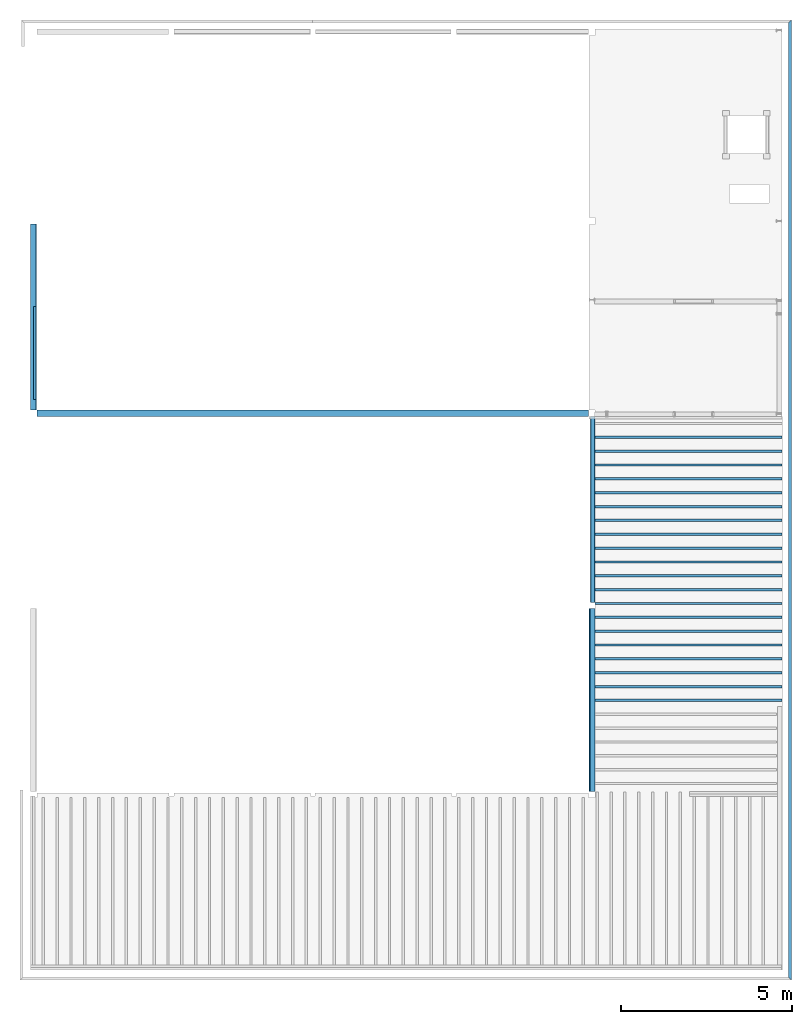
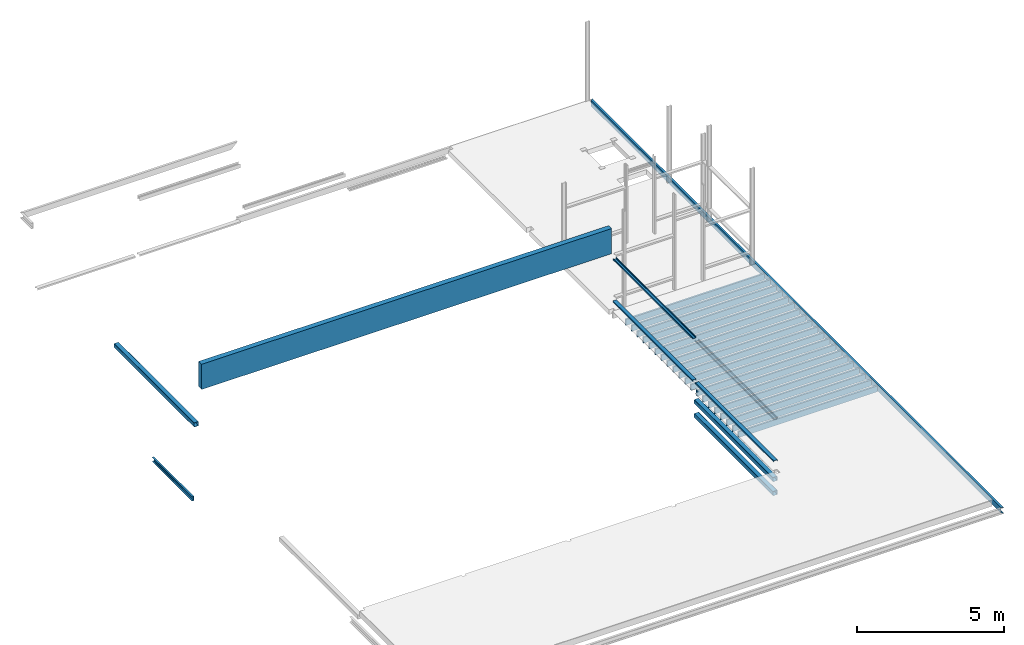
# One storey, part 3 of 8: 29 beams.
"""IFC2X3 building model written with IfcOpenShell, lengths in millimetres."""

from ifc_helpers import new_model, entity, si_unit, converted_unit, derived_unit, direction, frame, frame_2d, origin, place, context, subcontext, project, spatial, polyline, circle_curve, parameter, trimmed, segment, composite_curve, rectangle, outline, extrude, clip, halfspace, material, type_object, element, save


model = new_model("IFC2X3")

# Units and contexts
model_context = context("Model", 3, precision=0.01, world=origin(), true_north=direction((6.123031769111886e-17, 1.0)))
plan_context = context("Plan", 3, precision=0.01, world=origin(), true_north=direction((6.123031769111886e-17, 1.0)))
body_context = subcontext(model_context, "Body", "Model", "MODEL_VIEW")
ifc_project = project(units=[si_unit("LENGTHUNIT", "METRE", prefix="MILLI"), si_unit("AREAUNIT", "SQUARE_METRE"), si_unit("VOLUMEUNIT", "CUBIC_METRE"), converted_unit("PLANEANGLEUNIT", "DEGREE", entity("IfcPlaneAngleMeasure", 0.017453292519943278), si_unit("PLANEANGLEUNIT", "RADIAN"), dimensions=[0, 0, 0, 0, 0, 0, 0]), si_unit("MASSUNIT", "GRAM", prefix="KILO"), derived_unit("MASSDENSITYUNIT", [(si_unit("MASSUNIT", "GRAM", prefix="KILO"), 1), (si_unit("LENGTHUNIT", "METRE"), -3)]), derived_unit("IONCONCENTRATIONUNIT", [(si_unit("MASSUNIT", "GRAM", prefix="KILO"), 1), (si_unit("LENGTHUNIT", "METRE"), -3)]), derived_unit("MOMENTOFINERTIAUNIT", [(si_unit("LENGTHUNIT", "METRE"), 4)]), si_unit("TIMEUNIT", "SECOND"), si_unit("FREQUENCYUNIT", "HERTZ"), si_unit("THERMODYNAMICTEMPERATUREUNIT", "DEGREE_CELSIUS"), derived_unit("THERMALTRANSMITTANCEUNIT", [(si_unit("MASSUNIT", "GRAM", prefix="KILO"), 1), (si_unit("THERMODYNAMICTEMPERATUREUNIT", "KELVIN"), -1), (si_unit("TIMEUNIT", "SECOND"), -3)]), derived_unit("THERMALCONDUCTANCEUNIT", [(si_unit("MASSUNIT", "GRAM", prefix="KILO"), 1), (si_unit("THERMODYNAMICTEMPERATUREUNIT", "KELVIN"), -1), (si_unit("TIMEUNIT", "SECOND"), -3), (si_unit("LENGTHUNIT", "METRE"), 1)]), derived_unit("VOLUMETRICFLOWRATEUNIT", [(si_unit("LENGTHUNIT", "METRE", prefix="DECI"), 3), (si_unit("TIMEUNIT", "SECOND"), -1)]), derived_unit("MASSFLOWRATEUNIT", [(si_unit("MASSUNIT", "GRAM", prefix="KILO"), 1), (si_unit("TIMEUNIT", "SECOND"), -1)]), derived_unit("ROTATIONALFREQUENCYUNIT", [(si_unit("TIMEUNIT", "SECOND"), -1)]), si_unit("ELECTRICCURRENTUNIT", "AMPERE"), si_unit("ELECTRICVOLTAGEUNIT", "VOLT"), si_unit("POWERUNIT", "WATT"), si_unit("FORCEUNIT", "NEWTON", prefix="KILO"), si_unit("ILLUMINANCEUNIT", "LUX"), si_unit("LUMINOUSFLUXUNIT", "LUMEN"), si_unit("LUMINOUSINTENSITYUNIT", "CANDELA"), si_unit("ENERGYUNIT", "JOULE"), derived_unit("USERDEFINED", [(si_unit("MASSUNIT", "GRAM", prefix="KILO"), -1), (si_unit("LENGTHUNIT", "METRE"), -2), (si_unit("TIMEUNIT", "SECOND"), 3), (si_unit("LUMINOUSFLUXUNIT", "LUMEN"), 1)]), derived_unit("USERDEFINED", [(si_unit("MASSUNIT", "GRAM", prefix="KILO"), 1), (si_unit("TIMEUNIT", "SECOND"), -3), (si_unit("LENGTHUNIT", "METRE"), 3), (si_unit("ELECTRICCURRENTUNIT", "AMPERE"), -2)]), derived_unit("SOUNDPOWERUNIT", [(si_unit("MASSUNIT", "GRAM", prefix="KILO"), 1), (si_unit("TIMEUNIT", "SECOND"), -3), (si_unit("LENGTHUNIT", "METRE"), 2)]), derived_unit("SOUNDPRESSUREUNIT", [(si_unit("MASSUNIT", "GRAM", prefix="KILO"), 1), (si_unit("LENGTHUNIT", "METRE"), -1), (si_unit("TIMEUNIT", "SECOND"), -2)]), derived_unit("LINEARVELOCITYUNIT", [(si_unit("LENGTHUNIT", "METRE"), 1), (si_unit("TIMEUNIT", "SECOND"), -1)]), si_unit("PRESSUREUNIT", "PASCAL"), derived_unit("USERDEFINED", [(si_unit("MASSUNIT", "GRAM", prefix="KILO"), 1), (si_unit("LENGTHUNIT", "METRE"), -2), (si_unit("TIMEUNIT", "SECOND"), -2)]), derived_unit("LINEARFORCEUNIT", [(si_unit("MASSUNIT", "GRAM", prefix="KILO"), 1), (si_unit("TIMEUNIT", "SECOND"), -2)]), derived_unit("PLANARFORCEUNIT", [(si_unit("MASSUNIT", "GRAM", prefix="KILO"), 1), (si_unit("LENGTHUNIT", "METRE"), -1), (si_unit("TIMEUNIT", "SECOND"), -2)]), derived_unit("SPECIFICHEATCAPACITYUNIT", [(si_unit("THERMODYNAMICTEMPERATUREUNIT", "KELVIN"), -1), (si_unit("LENGTHUNIT", "METRE"), 2), (si_unit("TIMEUNIT", "SECOND"), -2)]), derived_unit("HEATFLUXDENSITYUNIT", [(si_unit("MASSUNIT", "GRAM", prefix="KILO"), 1), (si_unit("TIMEUNIT", "SECOND"), -3)]), derived_unit("HEATINGVALUEUNIT", [(si_unit("LENGTHUNIT", "METRE"), 2), (si_unit("TIMEUNIT", "SECOND"), -2)]), derived_unit("VAPORPERMEABILITYUNIT", [(si_unit("LENGTHUNIT", "METRE"), -1), (si_unit("TIMEUNIT", "SECOND"), 1)]), derived_unit("DYNAMICVISCOSITYUNIT", [(si_unit("MASSUNIT", "GRAM", prefix="KILO"), 1), (si_unit("TIMEUNIT", "SECOND"), -1), (si_unit("LENGTHUNIT", "METRE"), -1)]), derived_unit("THERMALEXPANSIONCOEFFICIENTUNIT", [(si_unit("THERMODYNAMICTEMPERATUREUNIT", "KELVIN"), -1)]), derived_unit("MODULUSOFELASTICITYUNIT", [(si_unit("MASSUNIT", "GRAM", prefix="KILO"), 1), (si_unit("LENGTHUNIT", "METRE"), -1), (si_unit("TIMEUNIT", "SECOND"), -2)]), derived_unit("ISOTHERMALMOISTURECAPACITYUNIT", [(si_unit("MASSUNIT", "GRAM", prefix="KILO"), -1), (si_unit("LENGTHUNIT", "METRE"), 3)]), derived_unit("MOISTUREDIFFUSIVITYUNIT", [(si_unit("TIMEUNIT", "SECOND"), -1), (si_unit("LENGTHUNIT", "METRE"), 2)]), derived_unit("MASSPERLENGTHUNIT", [(si_unit("MASSUNIT", "GRAM", prefix="KILO"), 1), (si_unit("LENGTHUNIT", "METRE"), -1)]), derived_unit("THERMALRESISTANCEUNIT", [(si_unit("MASSUNIT", "GRAM", prefix="KILO"), -1), (si_unit("TIMEUNIT", "SECOND"), 3), (si_unit("THERMODYNAMICTEMPERATUREUNIT", "KELVIN"), 1)]), derived_unit("ACCELERATIONUNIT", [(si_unit("LENGTHUNIT", "METRE"), 1), (si_unit("TIMEUNIT", "SECOND"), -2)]), derived_unit("ANGULARVELOCITYUNIT", [(si_unit("TIMEUNIT", "SECOND"), -1), (si_unit("PLANEANGLEUNIT", "RADIAN"), 1)]), derived_unit("LINEARSTIFFNESSUNIT", [(si_unit("MASSUNIT", "GRAM", prefix="KILO"), 1), (si_unit("TIMEUNIT", "SECOND"), -2)]), derived_unit("WARPINGCONSTANTUNIT", [(si_unit("LENGTHUNIT", "METRE"), 6)]), derived_unit("LINEARMOMENTUNIT", [(si_unit("MASSUNIT", "GRAM", prefix="KILO"), 1), (si_unit("LENGTHUNIT", "METRE"), 1), (si_unit("TIMEUNIT", "SECOND"), -2)]), derived_unit("TORQUEUNIT", [(si_unit("MASSUNIT", "GRAM", prefix="KILO"), 1), (si_unit("LENGTHUNIT", "METRE"), 2), (si_unit("TIMEUNIT", "SECOND"), -2)])], contexts=[model_context, plan_context])

# Site, building, storey
site_placement = place(None, origin())
site = spatial("IfcSite", under=ifc_project, at=site_placement, Name="Default", CompositionType="ELEMENT")
building_placement = place(site_placement, origin())
building = spatial("IfcBuilding", under=site, at=building_placement, CompositionType="ELEMENT")
storey_placement = place(building_placement, frame((0.0, 0.0, 3410.0)))
storey = spatial("IfcBuildingStorey", under=building, at=storey_placement, Name="01 eerste verdieping", CompositionType="ELEMENT", Elevation=3410.0000000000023)

# Beams
ifc_material_1 = material(Name="constructiehout C24")
beam_type_1 = type_object("IfcBeamType", Name="28_SF_LIB_houten ligger rechthoekig_dw:70x245 (C24)", PredefinedType="NOTDEFINED")
for number, where in (
    (1, (50586.19293735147, 26787.67041296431, 0.0)),
    (2, (50586.19293735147, 26382.67041296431, 0.0)),
    (3, (50586.19293735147, 25977.67041296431, 0.0)),
    (4, (50586.19293735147, 25572.67041296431, 0.0)),
    (5, (50586.19293735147, 25167.67041296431, 0.0)),
    (6, (50586.19293735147, 24762.67041296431, 0.0)),
    (7, (50586.19293735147, 24357.67041296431, 0.0)),
    (8, (50586.19293735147, 23952.67041296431, 0.0)),
    (9, (50586.19293735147, 23547.670412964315, 0.0)),
    (10, (50586.19293735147, 23142.67041296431, 0.0)),
    (11, (50586.19293735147, 22737.67041296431, 0.0)),
    (12, (50586.19293735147, 22332.67041296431, 0.0)),
    (13, (50586.19293735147, 21927.670412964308, 0.0)),
    (14, (50586.19293735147, 21522.67041296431, 0.0)),
    (15, (50586.19293735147, 21117.67041296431, 0.0)),
    (16, (50586.19293735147, 20712.67041296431, 0.0)),
    (17, (50586.19293735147, 20307.670412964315, 0.0)),
    (18, (50586.19293735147, 19902.67041296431, 0.0)),
    (19, (50586.19293735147, 19497.67041296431, 0.0)),
):
    element("IfcBeam", number, at=place(storey_placement, frame(where)), inside=storey, type_object=beam_type_1, material=ifc_material_1, Name="28_SF_LIB_houten ligger rechthoekig_dw:70x245 (C24)", ObjectType="28_SF_LIB_houten ligger rechthoekig_dw:70x245 (C24)", context=body_context, shape_type="SweptSolid", body=[
        extrude(rectangle(XDim=244.99999999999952, YDim=70.0000000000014, at=frame_2d((2.7711166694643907e-13, 0.0), x_axis=(1.0, 0.0))), frame((0.0, 0.0, -130.5000000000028), z_axis=(1.0, 0.0, 0.0), x_axis=(0.0, 0.0, -1.0)), (0.0, 0.0, 1.0), 5460.000000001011),
    ])
beam_1_placement = place(storey_placement, frame((50586.19293735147, 19092.67041296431, 0.0)))
element("IfcBeam", 20, at=beam_1_placement, inside=storey, type_object=beam_type_1, material=ifc_material_1, Name="28_SF_LIB_houten ligger rechthoekig_dw:70x245 (C24)", ObjectType="28_SF_LIB_houten ligger rechthoekig_dw:70x245 (C24)", context=body_context, shape_type="SweptSolid", body=[
    extrude(rectangle(XDim=244.99999999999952, YDim=69.99999999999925, at=frame_2d((2.7711166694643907e-13, 0.0), x_axis=(1.0, 0.0))), frame((0.0, 0.0, -130.5000000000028), z_axis=(1.0, 0.0, 0.0), x_axis=(0.0, 0.0, -1.0)), (0.0, 0.0, 1.0), 5460.000000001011),
])
ifc_material_2 = material(Name="constructiehout GL28h")
beam_type_2 = type_object("IfcBeamType", Name="28_SF_LIB_houten ligger rechthoekig_dw:200x1050 (GL28h)", PredefinedType="NOTDEFINED")
beam_2_placement = place(storey_placement, frame((34256.1929373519, 27492.670340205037, 3465.0)))
element("IfcBeam", 21, at=beam_2_placement, inside=storey, type_object=beam_type_2, material=ifc_material_2, Name="28_SF_LIB_houten ligger rechthoekig_dw:200x1050 (GL28h)", ObjectType="28_SF_LIB_houten ligger rechthoekig_dw:200x1050 (GL28h)", context=body_context, shape_type="SweptSolid", body=[
    extrude(rectangle(XDim=1049.9999999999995, YDim=199.99999999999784, at=frame_2d((0.0, 5.197620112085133e-11), x_axis=(1.0, 0.0))), frame((0.0, 0.0, -525.0), z_axis=(1.0, 0.0, 0.0), x_axis=(0.0, 0.0, -1.0)), (0.0, 0.0, 1.0), 16139.999999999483),
])
ifc_material_3 = material(Name="constructiestaal S235")
beam_type_3 = type_object("IfcBeamType", Name="28_SF_LIB_UNP ligger_dw:UNP240 (S235)", PredefinedType="NOTDEFINED")
beam_3_placement = place(storey_placement, frame((56263.55293735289, 38992.670507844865, -240.0), z_axis=(0.0, 0.0, 1.0), x_axis=(0.0, -1.0, 0.0)))
element("IfcBeam", 22, at=beam_3_placement, inside=storey, type_object=beam_type_3, material=ifc_material_3, Name="28_SF_LIB_UNP ligger_dw:UNP240 (S235)", ObjectType="28_SF_LIB_UNP ligger_dw:UNP240 (S235)", context=body_context, shape_type="SweptSolid", body=[
    clip(clip(extrude(outline(composite_curve([segment(polyline([(-120.06239725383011, -46.749999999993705), (119.93760274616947, -46.749999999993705)]), True, "CONTINUOUS"), segment(polyline([(119.93760274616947, -46.749999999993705), (119.93760274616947, 38.25000000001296)]), True, "CONTINUOUS"), segment(polyline([(119.93760274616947, 38.25000000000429), (113.9977017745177, 38.25000000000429)]), True, "CONTINUOUS"), segment(trimmed(circle_curve(frame_2d((113.99770177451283, 31.750000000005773), x_axis=(0.0, 1.0)), 6.499999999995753), [parameter(0.0)], [parameter(90.00000000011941)], True, "PARAMETER"), True, "CONTINUOUS"), segment(polyline([(107.49770177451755, 31.750000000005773), (103.98541273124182, -24.24999999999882)]), True, "CONTINUOUS"), segment(trimmed(circle_curve(frame_2d((90.98541273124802, -24.250000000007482), x_axis=(1.0, 0.0)), 12.999999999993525), [parameter(269.99999999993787)], [parameter(0.0)], True, "PARAMETER"), False, "CONTINUOUS"), segment(polyline([(90.98541273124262, -37.249999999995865), (-90.47086063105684, -37.249999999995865)]), True, "CONTINUOUS"), segment(trimmed(circle_curve(frame_2d((-90.47086063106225, -24.250000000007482), x_axis=(0.0, -1.0)), 12.999999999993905), [parameter(269.99999999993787)], [parameter(0.0)], True, "PARAMETER"), False, "CONTINUOUS"), segment(polyline([(-103.4708606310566, -24.24999999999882), (-107.88745936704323, 31.750000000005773)]), True, "CONTINUOUS"), segment(trimmed(circle_curve(frame_2d((-114.38745936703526, 31.750000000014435), x_axis=(1.0, 0.0)), 6.499999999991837), [parameter(0.0)], [parameter(90.00000000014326)], True, "PARAMETER"), True, "CONTINUOUS"), segment(polyline([(-114.38745936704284, 38.25000000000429), (-120.06239725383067, 38.25000000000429)]), True, "CONTINUOUS"), segment(polyline([(-120.06239725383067, 38.25000000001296), (-120.06239725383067, -46.749999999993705)]), True, "CONTINUOUS")], self_intersect=False)), frame((0.0, 24.389999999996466, -120.06239725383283), z_axis=(1.0, 0.0, 0.0), x_axis=(0.0, 0.0, -1.0)), (0.0, 0.0, 1.0), 28076.000044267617), halfspace(frame((27991.000044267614, -22.359999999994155, 1690.0), z_axis=(0.7071067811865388, -0.7071067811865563, 0.0), x_axis=(-0.7071067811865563, -0.7071067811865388, 0.0)), False)), halfspace(frame((85.0, -22.35999999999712, 1690.0), z_axis=(-0.7071067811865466, -0.7071067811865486, 0.0), x_axis=(0.7071067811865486, -0.7071067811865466, 0.0)), False)),
])
beam_type_4 = type_object("IfcBeamType", Name="28_SF_LIB_UNP ligger_dw:UNP140 (S235)", PredefinedType="NOTDEFINED")
beam_4_placement = place(storey_placement, frame((50586.19293735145, 21962.67034020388, 2140.0), z_axis=(0.0, 0.0, 1.0), x_axis=(0.0, 1.0, 0.0)))
element("IfcBeam", 23, at=beam_4_placement, inside=storey, type_object=beam_type_4, material=ifc_material_3, Name="28_SF_LIB_UNP ligger_dw:UNP140 (S235)", ObjectType="28_SF_LIB_UNP ligger_dw:UNP140 (S235)", context=body_context, shape_type="SweptSolid", body=[
    extrude(outline(composite_curve([segment(polyline([(-26.833333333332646, -70.06239725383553), (33.16666666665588, -70.06239725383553)]), True, "CONTINUOUS"), segment(polyline([(33.166666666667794, -70.06239725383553), (33.1666666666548, 69.93760274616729)]), True, "CONTINUOUS"), segment(polyline([(33.166666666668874, 69.93760274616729), (-26.833333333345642, 69.93760274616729)]), True, "CONTINUOUS"), segment(polyline([(-26.833333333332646, 69.93760274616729), (-26.833333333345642, 65.16520177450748)]), True, "CONTINUOUS"), segment(trimmed(circle_curve(frame_2d((-21.833333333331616, 65.16520177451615), x_axis=(-1.0, 0.0)), 5.0000000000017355), [parameter(0.0)], [parameter(89.99999999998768)], True, "PARAMETER"), True, "CONTINUOUS"), segment(polyline([(-21.833333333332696, 60.16520177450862), (16.166666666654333, 58.14041273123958)]), True, "CONTINUOUS"), segment(trimmed(circle_curve(frame_2d((16.16666666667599, 48.14041273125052), x_axis=(0.0, 1.0)), 9.999999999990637), [parameter(269.99999999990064)], [parameter(0.0)], True, "PARAMETER"), False, "CONTINUOUS"), segment(polyline([(26.16666666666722, 48.140412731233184), (26.166666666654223, -47.625860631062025)]), True, "CONTINUOUS"), segment(trimmed(circle_curve(frame_2d((16.16666666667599, -47.625860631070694), x_axis=(1.0, 0.0)), 9.999999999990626), [parameter(269.99999999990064)], [parameter(0.0)], True, "PARAMETER"), False, "CONTINUOUS"), segment(polyline([(16.166666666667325, -57.62586063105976), (-21.833333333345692, -60.55495936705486)]), True, "CONTINUOUS"), segment(trimmed(circle_curve(frame_2d((-21.833333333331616, -65.55495936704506), x_axis=(0.0, 1.0)), 5.000000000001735), [parameter(0.0)], [parameter(89.99999999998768)], True, "PARAMETER"), True, "CONTINUOUS"), segment(polyline([(-26.833333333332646, -65.55495936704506), (-26.833333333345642, -70.06239725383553)]), True, "CONTINUOUS")], self_intersect=False)), frame((0.0, 70.06239725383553, 33.1666666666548), z_axis=(1.0, 0.0, 0.0), x_axis=(0.0, 0.0, -1.0)), (0.0, 0.0, 1.0), 5440.000000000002),
])
beam_5_placement = place(storey_placement, frame((50446.192937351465, 16472.670340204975, 432.45000000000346), z_axis=(0.0, 0.0, 1.0), x_axis=(0.0, 1.0, 0.0)))
element("IfcBeam", 24, at=beam_5_placement, inside=storey, type_object=beam_type_4, material=ifc_material_3, Name="28_SF_LIB_UNP ligger_dw:UNP140 (S235)", ObjectType="28_SF_LIB_UNP ligger_dw:UNP140 (S235)", context=body_context, shape_type="SweptSolid", body=[
    extrude(outline(composite_curve([segment(polyline([(-33.16666666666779, -69.93760274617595), (26.833333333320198, -69.93760274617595)]), True, "CONTINUOUS"), segment(polyline([(26.833333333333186, -69.93760274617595), (26.833333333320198, -65.16520177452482)]), True, "CONTINUOUS"), segment(trimmed(circle_curve(frame_2d((21.833333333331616, -65.16520177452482), x_axis=(1.0, 0.0)), 5.0000000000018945), [parameter(0.0)], [parameter(89.99999999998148)], True, "PARAMETER"), True, "CONTINUOUS"), segment(polyline([(21.833333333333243, -60.165201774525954), (-16.166666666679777, -58.14041273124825)]), True, "CONTINUOUS"), segment(trimmed(circle_curve(frame_2d((-16.166666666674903, -48.14041273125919), x_axis=(0.0, -1.0)), 9.999999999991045), [parameter(269.9999999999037)], [parameter(0.0)], True, "PARAMETER"), False, "CONTINUOUS"), segment(polyline([(-26.166666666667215, -48.14041273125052), (-26.16666666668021, 47.6258606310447)]), True, "CONTINUOUS"), segment(trimmed(circle_curve(frame_2d((-16.166666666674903, 47.625860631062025), x_axis=(-1.0, 0.0)), 9.999999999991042), [parameter(269.9999999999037)], [parameter(0.0)], True, "PARAMETER"), False, "CONTINUOUS"), segment(polyline([(-16.16666666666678, 57.62586063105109), (21.833333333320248, 60.554959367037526)]), True, "CONTINUOUS"), segment(trimmed(circle_curve(frame_2d((21.833333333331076, 65.55495936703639), x_axis=(0.0, -1.0)), 5.000000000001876), [parameter(0.0)], [parameter(89.99999999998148)], True, "PARAMETER"), True, "CONTINUOUS"), segment(polyline([(26.833333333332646, 65.55495936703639), (26.83333333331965, 70.06239725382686)]), True, "CONTINUOUS"), segment(polyline([(26.833333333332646, 70.06239725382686), (-33.16666666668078, 70.06239725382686)]), True, "CONTINUOUS"), segment(polyline([(-33.16666666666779, 70.06239725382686), (-33.16666666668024, -69.93760274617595)]), True, "CONTINUOUS")], self_intersect=False)), frame((-48.99987661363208, -70.06239725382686, -33.16666666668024), z_axis=(1.0, 0.0, 0.0), x_axis=(0.0, 0.0, -1.0)), (0.0, 0.0, 1.0), 5358.9998766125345),
])
beam_6_placement = place(storey_placement, frame((50446.19293735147, 21962.670340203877, 432.45000000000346), z_axis=(0.0, 0.0, 1.0), x_axis=(0.0, 1.0, 0.0)))
element("IfcBeam", 25, at=beam_6_placement, inside=storey, type_object=beam_type_4, material=ifc_material_3, Name="28_SF_LIB_UNP ligger_dw:UNP140 (S235)", ObjectType="28_SF_LIB_UNP ligger_dw:UNP140 (S235)", context=body_context, shape_type="SweptSolid", body=[
    extrude(outline(composite_curve([segment(polyline([(-33.16666666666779, -69.93760274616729), (26.83333333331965, -69.93760274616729)]), True, "CONTINUOUS"), segment(polyline([(26.833333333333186, -69.93760274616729), (26.833333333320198, -65.16520177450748)]), True, "CONTINUOUS"), segment(trimmed(circle_curve(frame_2d((21.833333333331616, -65.16520177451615), x_axis=(1.0, 0.0)), 5.000000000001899), [parameter(0.0)], [parameter(89.99999999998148)], True, "PARAMETER"), True, "CONTINUOUS"), segment(polyline([(21.833333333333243, -60.16520177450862), (-16.166666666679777, -58.14041273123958)]), True, "CONTINUOUS"), segment(trimmed(circle_curve(frame_2d((-16.166666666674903, -48.14041273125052), x_axis=(0.0, -1.0)), 9.999999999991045), [parameter(269.9999999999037)], [parameter(0.0)], True, "PARAMETER"), False, "CONTINUOUS"), segment(polyline([(-26.166666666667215, -48.140412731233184), (-26.16666666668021, 47.625860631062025)]), True, "CONTINUOUS"), segment(trimmed(circle_curve(frame_2d((-16.166666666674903, 47.625860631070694), x_axis=(-1.0, 0.0)), 9.999999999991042), [parameter(269.9999999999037)], [parameter(0.0)], True, "PARAMETER"), False, "CONTINUOUS"), segment(polyline([(-16.16666666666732, 57.62586063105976), (21.833333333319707, 60.55495936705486)]), True, "CONTINUOUS"), segment(trimmed(circle_curve(frame_2d((21.833333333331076, 65.55495936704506), x_axis=(0.0, -1.0)), 5.0000000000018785), [parameter(0.0)], [parameter(89.99999999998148)], True, "PARAMETER"), True, "CONTINUOUS"), segment(polyline([(26.833333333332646, 65.55495936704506), (26.83333333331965, 70.06239725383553)]), True, "CONTINUOUS"), segment(polyline([(26.833333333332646, 70.06239725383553), (-33.16666666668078, 70.06239725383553)]), True, "CONTINUOUS"), segment(polyline([(-33.16666666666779, 70.06239725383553), (-33.16666666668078, -69.93760274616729)]), True, "CONTINUOUS")], self_intersect=False)), frame((0.0, -70.06239725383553, -33.16666666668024), z_axis=(1.0, 0.0, 0.0), x_axis=(0.0, 0.0, -1.0)), (0.0, 0.0, 1.0), 5437.400145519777),
])
ifc_material_4 = material(Name="constructiestaal S355")
beam_type_5 = type_object("IfcBeamType", Name="28_SF_UN_koker ligger_dw:K180x180x10 (S355)", PredefinedType="NOTDEFINED")
beam_7_placement = place(storey_placement, origin())
element("IfcBeam", 26, at=beam_7_placement, inside=storey, type_object=beam_type_5, material=ifc_material_4, Name="28_SF_UN_koker ligger_dw:K180x180x10 (S355)", ObjectType="28_SF_UN_koker ligger_dw:K180x180x10 (S355)", context=body_context, shape_type="SweptSolid", body=[
    extrude(outline(composite_curve([segment(polyline([(-75.0, -90.0), (75.0, -90.0)]), True, "CONTINUOUS"), segment(trimmed(circle_curve(frame_2d((75.0, -75.0), x_axis=(-1.0, 0.0)), 15.0), [parameter(90.00000000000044)], [parameter(180.0000000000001)], True, "PARAMETER"), True, "CONTINUOUS"), segment(polyline([(90.0, -75.0), (90.0, 75.0)]), True, "CONTINUOUS"), segment(trimmed(circle_curve(frame_2d((75.0, 75.0), x_axis=(-1.0, 0.0)), 15.0), [parameter(180.00000000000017)], [parameter(269.9999999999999)], True, "PARAMETER"), True, "CONTINUOUS"), segment(polyline([(75.0, 90.0), (-75.0, 90.0)]), True, "CONTINUOUS"), segment(trimmed(circle_curve(frame_2d((-75.0, 75.0), x_axis=(-1.0, 0.0)), 15.0), [parameter(270.0000000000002)], [parameter(3.053332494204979e-13)], True, "PARAMETER"), True, "CONTINUOUS"), segment(polyline([(-90.0, 75.0), (-90.0, -75.0)]), True, "CONTINUOUS"), segment(trimmed(circle_curve(frame_2d((-75.0, -75.0), x_axis=(-1.0, 0.0)), 15.0), [parameter(3.053332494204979e-13)], [parameter(90.0000000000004)], True, "PARAMETER"), True, "CONTINUOUS")], self_intersect=False), holes=[composite_curve([segment(trimmed(circle_curve(frame_2d((-77.0, -77.0), x_axis=(-1.0, 0.0)), 5.0), [parameter(5.597776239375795e-13)], [parameter(90.0000000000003)], True, "PARAMETER"), False, "CONTINUOUS"), segment(polyline([(-82.0, -77.0), (-82.0, 77.0)]), True, "CONTINUOUS"), segment(trimmed(circle_curve(frame_2d((-77.0, 77.0), x_axis=(-1.0, 0.0)), 5.0), [parameter(270.00000000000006)], [parameter(0.0)], True, "PARAMETER"), False, "CONTINUOUS"), segment(polyline([(-77.0, 82.0), (77.0, 82.0)]), True, "CONTINUOUS"), segment(trimmed(circle_curve(frame_2d((77.0, 77.0), x_axis=(-1.0, 0.0)), 5.0), [parameter(179.9999999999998)], [parameter(269.99999999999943)], True, "PARAMETER"), False, "CONTINUOUS"), segment(polyline([(82.0, 77.0), (82.0, -77.0)]), True, "CONTINUOUS"), segment(trimmed(circle_curve(frame_2d((77.0, -77.0), x_axis=(-1.0, 0.0)), 5.0), [parameter(89.99999999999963)], [parameter(179.9999999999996)], True, "PARAMETER"), False, "CONTINUOUS"), segment(polyline([(77.0, -82.0), (-77.0, -82.0)]), True, "CONTINUOUS")], self_intersect=False)]), frame((50496.19293735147, 16423.670463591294, -345.0), z_axis=(0.0, 1.0, 0.0), x_axis=(1.0, 0.0, 0.0)), (0.0, 0.0, 1.0), 5358.999876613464),
])
beam_8_placement = place(storey_placement, origin())
element("IfcBeam", 27, at=beam_8_placement, inside=storey, type_object=beam_type_5, material=ifc_material_4, Name="28_SF_UN_koker ligger_dw:K180x180x10 (S355)", ObjectType="28_SF_UN_koker ligger_dw:K180x180x10 (S355)", context=body_context, shape_type="SweptSolid", body=[
    extrude(outline(composite_curve([segment(polyline([(-75.0, -90.0), (75.0, -90.0)]), True, "CONTINUOUS"), segment(trimmed(circle_curve(frame_2d((75.0, -75.0), x_axis=(-1.0, 0.0)), 15.0), [parameter(90.00000000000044)], [parameter(180.0000000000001)], True, "PARAMETER"), True, "CONTINUOUS"), segment(polyline([(90.0, -75.0), (90.0, 75.0)]), True, "CONTINUOUS"), segment(trimmed(circle_curve(frame_2d((75.0, 75.0), x_axis=(-1.0, 0.0)), 15.0), [parameter(180.00000000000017)], [parameter(269.9999999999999)], True, "PARAMETER"), True, "CONTINUOUS"), segment(polyline([(75.0, 90.0), (-75.0, 90.0)]), True, "CONTINUOUS"), segment(trimmed(circle_curve(frame_2d((-75.0, 75.0), x_axis=(-1.0, 0.0)), 15.0), [parameter(270.0000000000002)], [parameter(3.053332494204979e-13)], True, "PARAMETER"), True, "CONTINUOUS"), segment(polyline([(-90.0, 75.0), (-90.0, -75.0)]), True, "CONTINUOUS"), segment(trimmed(circle_curve(frame_2d((-75.0, -75.0), x_axis=(-1.0, 0.0)), 15.0), [parameter(3.053332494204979e-13)], [parameter(90.0000000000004)], True, "PARAMETER"), True, "CONTINUOUS")], self_intersect=False), holes=[composite_curve([segment(trimmed(circle_curve(frame_2d((-77.0, -77.0), x_axis=(-1.0, 0.0)), 5.0), [parameter(5.597776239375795e-13)], [parameter(90.0000000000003)], True, "PARAMETER"), False, "CONTINUOUS"), segment(polyline([(-82.0, -77.0), (-82.0, 77.0)]), True, "CONTINUOUS"), segment(trimmed(circle_curve(frame_2d((-77.0, 77.0), x_axis=(-1.0, 0.0)), 5.0), [parameter(270.00000000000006)], [parameter(0.0)], True, "PARAMETER"), False, "CONTINUOUS"), segment(polyline([(-77.0, 82.0), (77.0, 82.0)]), True, "CONTINUOUS"), segment(trimmed(circle_curve(frame_2d((77.0, 77.0), x_axis=(-1.0, 0.0)), 5.0), [parameter(179.9999999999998)], [parameter(269.99999999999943)], True, "PARAMETER"), False, "CONTINUOUS"), segment(polyline([(82.0, 77.0), (82.0, -77.0)]), True, "CONTINUOUS"), segment(trimmed(circle_curve(frame_2d((77.0, -77.0), x_axis=(-1.0, 0.0)), 5.0), [parameter(89.99999999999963)], [parameter(179.9999999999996)], True, "PARAMETER"), False, "CONTINUOUS"), segment(polyline([(77.0, -82.0), (-77.0, -82.0)]), True, "CONTINUOUS")], self_intersect=False)]), frame((50496.19293735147, 16423.670463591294, -925.0), z_axis=(0.0, 1.0, 0.0), x_axis=(1.0, 0.0, 0.0)), (0.0, 0.0, 1.0), 5358.999876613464),
])
beam_9_placement = place(storey_placement, origin())
element("IfcBeam", 28, at=beam_9_placement, inside=storey, type_object=beam_type_5, material=ifc_material_4, Name="28_SF_UN_koker ligger_dw:K180x180x10 (S355)", ObjectType="28_SF_UN_koker ligger_dw:K180x180x10 (S355)", context=body_context, shape_type="SweptSolid", body=[
    extrude(outline(composite_curve([segment(polyline([(-75.0, -90.0), (75.0, -90.0)]), True, "CONTINUOUS"), segment(trimmed(circle_curve(frame_2d((75.0, -75.0), x_axis=(-1.0, 0.0)), 15.0), [parameter(90.00000000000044)], [parameter(180.0000000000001)], True, "PARAMETER"), True, "CONTINUOUS"), segment(polyline([(90.0, -75.0), (90.0, 75.0)]), True, "CONTINUOUS"), segment(trimmed(circle_curve(frame_2d((75.0, 75.0), x_axis=(-1.0, 0.0)), 15.0), [parameter(180.00000000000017)], [parameter(269.9999999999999)], True, "PARAMETER"), True, "CONTINUOUS"), segment(polyline([(75.0, 90.0), (-75.0, 90.0)]), True, "CONTINUOUS"), segment(trimmed(circle_curve(frame_2d((-75.0, 75.0), x_axis=(-1.0, 0.0)), 15.0), [parameter(270.0000000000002)], [parameter(3.053332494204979e-13)], True, "PARAMETER"), True, "CONTINUOUS"), segment(polyline([(-90.0, 75.0), (-90.0, -75.0)]), True, "CONTINUOUS"), segment(trimmed(circle_curve(frame_2d((-75.0, -75.0), x_axis=(-1.0, 0.0)), 15.0), [parameter(3.053332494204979e-13)], [parameter(90.0000000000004)], True, "PARAMETER"), True, "CONTINUOUS")], self_intersect=False), holes=[composite_curve([segment(trimmed(circle_curve(frame_2d((-77.0, -77.0), x_axis=(-1.0, 0.0)), 5.0), [parameter(5.597776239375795e-13)], [parameter(90.0000000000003)], True, "PARAMETER"), False, "CONTINUOUS"), segment(polyline([(-82.0, -77.0), (-82.0, 77.0)]), True, "CONTINUOUS"), segment(trimmed(circle_curve(frame_2d((-77.0, 77.0), x_axis=(-1.0, 0.0)), 5.0), [parameter(270.00000000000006)], [parameter(0.0)], True, "PARAMETER"), False, "CONTINUOUS"), segment(polyline([(-77.0, 82.0), (77.0, 82.0)]), True, "CONTINUOUS"), segment(trimmed(circle_curve(frame_2d((77.0, 77.0), x_axis=(-1.0, 0.0)), 5.0), [parameter(179.9999999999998)], [parameter(269.99999999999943)], True, "PARAMETER"), False, "CONTINUOUS"), segment(polyline([(82.0, 77.0), (82.0, -77.0)]), True, "CONTINUOUS"), segment(trimmed(circle_curve(frame_2d((77.0, -77.0), x_axis=(-1.0, 0.0)), 5.0), [parameter(89.99999999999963)], [parameter(179.9999999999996)], True, "PARAMETER"), False, "CONTINUOUS"), segment(polyline([(77.0, -82.0), (-77.0, -82.0)]), True, "CONTINUOUS")], self_intersect=False)]), frame((34156.19293735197, 27582.67034020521, 890.0), z_axis=(0.0, 1.0, 0.0), x_axis=(1.0, 0.0, 0.0)), (0.0, 0.0, 1.0), 5439.9999999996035),
])
beam_type_6 = type_object("IfcBeamType", Name="28_SF_LIB_UNP ligger_dw:UNP180 (S235)", PredefinedType="NOTDEFINED")
beam_10_placement = place(storey_placement, frame((34218.54302283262, 27892.67034020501, -2320.0), z_axis=(0.0, 0.0, 1.0), x_axis=(0.0, 1.0, 0.0)))
element("IfcBeam", 29, at=beam_10_placement, inside=storey, type_object=beam_type_6, material=ifc_material_3, Name="28_SF_LIB_UNP ligger_dw:UNP180 (S235)", ObjectType="28_SF_LIB_UNP ligger_dw:UNP180 (S235)", context=body_context, shape_type="SweptSolid", body=[
    extrude(outline(composite_curve([segment(polyline([(-90.06239725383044, -38.583333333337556), (89.93760274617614, -38.583333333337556)]), True, "CONTINUOUS"), segment(polyline([(89.93760274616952, -38.583333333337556), (89.93760274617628, 31.41666666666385)]), True, "CONTINUOUS"), segment(polyline([(89.93760274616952, 31.41666666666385), (84.80520177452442, 31.41666666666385)]), True, "CONTINUOUS"), segment(trimmed(circle_curve(frame_2d((84.80520177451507, 25.9166666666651), x_axis=(0.0, 1.0)), 5.499999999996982), [parameter(0.0)], [parameter(90.0000000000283)], True, "PARAMETER"), True, "CONTINUOUS"), segment(polyline([(79.30520177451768, 25.9166666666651), (76.65041273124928, -19.583333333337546)]), True, "CONTINUOUS"), segment(trimmed(circle_curve(frame_2d((65.65041273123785, -19.583333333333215), x_axis=(1.0, 0.0)), 11.000000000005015), [parameter(270.00000000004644)], [parameter(0.0)], True, "PARAMETER"), False, "CONTINUOUS"), segment(polyline([(65.65041273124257, -30.583333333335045), (-65.13586063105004, -30.583333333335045)]), True, "CONTINUOUS"), segment(trimmed(circle_curve(frame_2d((-65.13586063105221, -19.583333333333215), x_axis=(0.0, -1.0)), 11.000000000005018), [parameter(270.00000000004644)], [parameter(0.0)], True, "PARAMETER"), False, "CONTINUOUS"), segment(polyline([(-76.13586063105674, -19.583333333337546), (-79.69495936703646, 25.916666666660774)]), True, "CONTINUOUS"), segment(trimmed(circle_curve(frame_2d((-85.1949593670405, 25.9166666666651), x_axis=(1.0, 0.0)), 5.499999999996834), [parameter(0.0)], [parameter(90.0000000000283)], True, "PARAMETER"), True, "CONTINUOUS"), segment(polyline([(-85.19495936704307, 31.41666666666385), (-90.06239725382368, 31.41666666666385)]), True, "CONTINUOUS"), segment(polyline([(-90.06239725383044, 31.41666666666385), (-90.06239725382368, -38.583333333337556)]), True, "CONTINUOUS")], self_intersect=False)), frame((-5.0, 19.303333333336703, -90.06239725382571), z_axis=(1.0, 0.0, 0.0), x_axis=(0.0, 0.0, -1.0)), (0.0, 0.0, 1.0), 2719.9999999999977),
])

save(model, "model.ifc")
